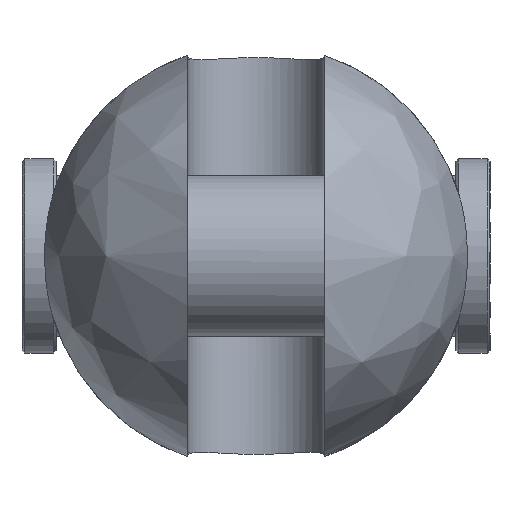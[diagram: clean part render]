
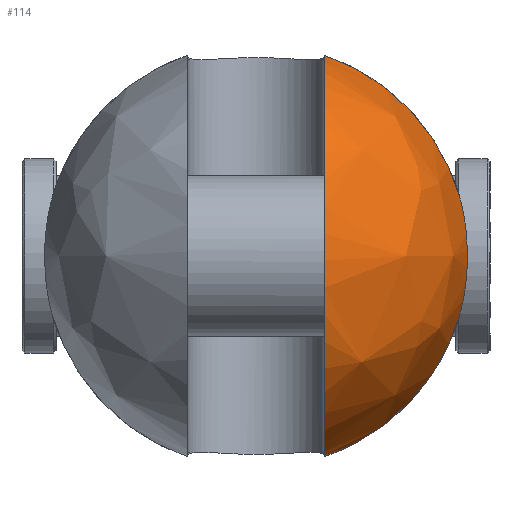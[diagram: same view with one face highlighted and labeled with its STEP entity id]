
A CAD part, left-side view. The second image highlights one B-rep face of the part: STEP entity #114.
In plain terms, the highlighted free-form (B-spline) face has degree [2, 2] with [9, 5] control points.
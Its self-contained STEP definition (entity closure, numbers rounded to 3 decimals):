
#114=ADVANCED_FACE('',(#203),#1560,.T.);
#203=FACE_OUTER_BOUND('',#303,.T.);
#303=EDGE_LOOP('',(#757,#758,#759,#760));
#757=ORIENTED_EDGE('',*,*,#1020,.T.);
#758=ORIENTED_EDGE('',*,*,#1017,.F.);
#759=ORIENTED_EDGE('',*,*,#1035,.T.);
#760=ORIENTED_EDGE('',*,*,#1010,.F.);
#1010=EDGE_CURVE('',#1449,#1450,#1277,.T.);
#1017=EDGE_CURVE('',#1457,#1458,#1278,.T.);
#1020=EDGE_CURVE('',#1449,#1458,#1280,.T.);
#1035=EDGE_CURVE('',#1457,#1450,#1146,.T.);
#1146=B_SPLINE_CURVE_WITH_KNOTS('',3,(#3606,#3607,#3608,#3609,#3610,#3611,
#3612,#3613,#3614,#3615,#3616,#3617,#3618,#3619),.UNSPECIFIED.,.F.,.F.,
(4,2,2,2,2,2,4),(0.,1.491,6.078,10.666,
15.254,19.842,21.333),.UNSPECIFIED.);
#1277=(
BOUNDED_CURVE()
B_SPLINE_CURVE(2,(#3510,#3511,#3512),.UNSPECIFIED.,.F.,.F.)
B_SPLINE_CURVE_WITH_KNOTS((3,3),(0.,35.825),.UNSPECIFIED.)
CURVE()
GEOMETRIC_REPRESENTATION_ITEM()
RATIONAL_B_SPLINE_CURVE((1.,0.885,1.))
REPRESENTATION_ITEM('')
);
#1278=(
BOUNDED_CURVE()
B_SPLINE_CURVE(2,(#3541,#3542,#3543),.UNSPECIFIED.,.F.,.F.)
B_SPLINE_CURVE_WITH_KNOTS((3,3),(0.,35.825),.UNSPECIFIED.)
CURVE()
GEOMETRIC_REPRESENTATION_ITEM()
RATIONAL_B_SPLINE_CURVE((1.,0.885,1.))
REPRESENTATION_ITEM('')
);
#1280=(
BOUNDED_CURVE()
B_SPLINE_CURVE(2,(#3549,#3550,#3551,#3552,#3553),.UNSPECIFIED.,.F.,.F.)
B_SPLINE_CURVE_WITH_KNOTS((3,2,3),(-109.956,-54.978,
0.),.UNSPECIFIED.)
CURVE()
GEOMETRIC_REPRESENTATION_ITEM()
RATIONAL_B_SPLINE_CURVE((1.,0.707,1.,0.707,1.))
REPRESENTATION_ITEM('')
);
#1449=VERTEX_POINT('',#3340);
#1450=VERTEX_POINT('',#3341);
#1457=VERTEX_POINT('',#3348);
#1458=VERTEX_POINT('',#3349);
#1560=(
BOUNDED_SURFACE()
B_SPLINE_SURFACE(2,2,((#3212,#3213,#3214,#3215,#3216),(#3217,#3218,#3219,
#3220,#3221),(#3222,#3223,#3224,#3225,#3226),(#3227,#3228,#3229,#3230,#3231),
(#3232,#3233,#3234,#3235,#3236),(#3237,#3238,#3239,#3240,#3241),(#3242,
#3243,#3244,#3245,#3246),(#3247,#3248,#3249,#3250,#3251),(#3252,#3253,#3254,
#3255,#3256)),.UNSPECIFIED.,.T.,.F.,.F.)
B_SPLINE_SURFACE_WITH_KNOTS((3,2,2,2,3),(3,2,3),(0.,58.119,116.239,
174.358,232.478),(0.,58.119,116.239),
 .UNSPECIFIED.)
GEOMETRIC_REPRESENTATION_ITEM()
RATIONAL_B_SPLINE_SURFACE(((1.,0.707,1.,0.707,1.),
(0.707,0.5,0.707,0.5,0.707),(1.,0.707,
1.,0.707,1.),(0.707,0.5,0.707,0.5,0.707),
(1.,0.707,1.,0.707,1.),(0.707,0.5,0.707,
0.5,0.707),(1.,0.707,1.,0.707,1.),(0.707,
0.5,0.707,0.5,0.707),(1.,0.707,1.,0.707,
1.)))
REPRESENTATION_ITEM('')
SURFACE()
);
#3212=CARTESIAN_POINT('',(-52.,0.,0.));
#3213=CARTESIAN_POINT('',(-52.,37.,0.));
#3214=CARTESIAN_POINT('',(-15.,37.,0.));
#3215=CARTESIAN_POINT('',(22.,37.,0.));
#3216=CARTESIAN_POINT('',(22.,0.,0.));
#3217=CARTESIAN_POINT('',(-52.,0.,0.));
#3218=CARTESIAN_POINT('',(-52.,37.,37.));
#3219=CARTESIAN_POINT('',(-15.,37.,37.));
#3220=CARTESIAN_POINT('',(22.,37.,37.));
#3221=CARTESIAN_POINT('',(22.,0.,0.));
#3222=CARTESIAN_POINT('',(-52.,0.,0.));
#3223=CARTESIAN_POINT('',(-52.,0.,37.));
#3224=CARTESIAN_POINT('',(-15.,0.,37.));
#3225=CARTESIAN_POINT('',(22.,0.,37.));
#3226=CARTESIAN_POINT('',(22.,0.,0.));
#3227=CARTESIAN_POINT('',(-52.,0.,0.));
#3228=CARTESIAN_POINT('',(-52.,-37.,37.));
#3229=CARTESIAN_POINT('',(-15.,-37.,37.));
#3230=CARTESIAN_POINT('',(22.,-37.,37.));
#3231=CARTESIAN_POINT('',(22.,0.,0.));
#3232=CARTESIAN_POINT('',(-52.,0.,0.));
#3233=CARTESIAN_POINT('',(-52.,-37.,0.));
#3234=CARTESIAN_POINT('',(-15.,-37.,0.));
#3235=CARTESIAN_POINT('',(22.,-37.,0.));
#3236=CARTESIAN_POINT('',(22.,0.,0.));
#3237=CARTESIAN_POINT('',(-52.,0.,0.));
#3238=CARTESIAN_POINT('',(-52.,-37.,-37.));
#3239=CARTESIAN_POINT('',(-15.,-37.,-37.));
#3240=CARTESIAN_POINT('',(22.,-37.,-37.));
#3241=CARTESIAN_POINT('',(22.,0.,0.));
#3242=CARTESIAN_POINT('',(-52.,0.,0.));
#3243=CARTESIAN_POINT('',(-52.,0.,-37.));
#3244=CARTESIAN_POINT('',(-15.,0.,-37.));
#3245=CARTESIAN_POINT('',(22.,0.,-37.));
#3246=CARTESIAN_POINT('',(22.,0.,0.));
#3247=CARTESIAN_POINT('',(-52.,0.,0.));
#3248=CARTESIAN_POINT('',(-52.,37.,-37.));
#3249=CARTESIAN_POINT('',(-15.,37.,-37.));
#3250=CARTESIAN_POINT('',(22.,37.,-37.));
#3251=CARTESIAN_POINT('',(22.,0.,0.));
#3252=CARTESIAN_POINT('',(-52.,0.,0.));
#3253=CARTESIAN_POINT('',(-52.,37.,0.));
#3254=CARTESIAN_POINT('',(-15.,37.,0.));
#3255=CARTESIAN_POINT('',(22.,37.,0.));
#3256=CARTESIAN_POINT('',(22.,0.,0.));
#3340=CARTESIAN_POINT('',(-15.,-12.,35.));
#3341=CARTESIAN_POINT('',(-15.,-35.637,9.95));
#3348=CARTESIAN_POINT('',(-15.,-35.637,-9.95));
#3349=CARTESIAN_POINT('',(-15.,-12.,-35.));
#3510=CARTESIAN_POINT('',(-15.,-12.,35.));
#3511=CARTESIAN_POINT('',(-15.,-30.405,28.69));
#3512=CARTESIAN_POINT('',(-15.,-35.637,9.95));
#3541=CARTESIAN_POINT('',(-15.,-35.637,-9.95));
#3542=CARTESIAN_POINT('',(-15.,-30.405,-28.69));
#3543=CARTESIAN_POINT('',(-15.,-12.,-35.));
#3549=CARTESIAN_POINT('',(-15.,-12.,35.));
#3550=CARTESIAN_POINT('',(-50.,-12.,35.));
#3551=CARTESIAN_POINT('',(-50.,-12.,0.));
#3552=CARTESIAN_POINT('',(-50.,-12.,-35.));
#3553=CARTESIAN_POINT('',(-15.,-12.,-35.));
#3606=CARTESIAN_POINT('',(-15.,-35.637,-9.95));
#3607=CARTESIAN_POINT('',(-15.265,-35.749,-9.551));
#3608=CARTESIAN_POINT('',(-15.51,-35.851,-9.146));
#3609=CARTESIAN_POINT('',(-16.426,-36.233,-7.498));
#3610=CARTESIAN_POINT('',(-17.025,-36.48,-6.049));
#3611=CARTESIAN_POINT('',(-17.813,-36.802,-3.025));
#3612=CARTESIAN_POINT('',(-18.,-36.878,-1.452));
#3613=CARTESIAN_POINT('',(-18.,-36.878,1.452));
#3614=CARTESIAN_POINT('',(-17.813,-36.802,3.025));
#3615=CARTESIAN_POINT('',(-17.025,-36.48,6.049));
#3616=CARTESIAN_POINT('',(-16.426,-36.233,7.498));
#3617=CARTESIAN_POINT('',(-15.51,-35.851,9.146));
#3618=CARTESIAN_POINT('',(-15.265,-35.749,9.551));
#3619=CARTESIAN_POINT('',(-15.,-35.637,9.95));
